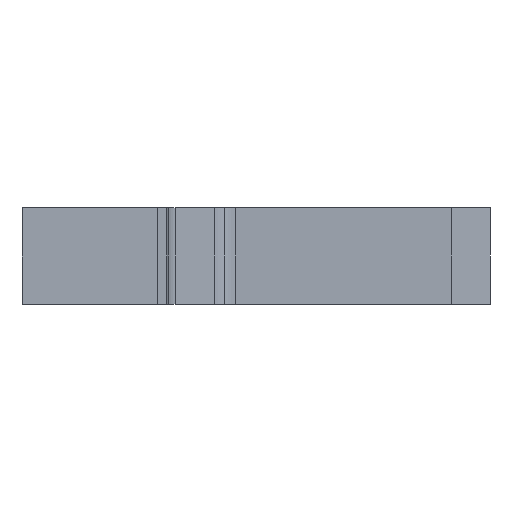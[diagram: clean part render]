
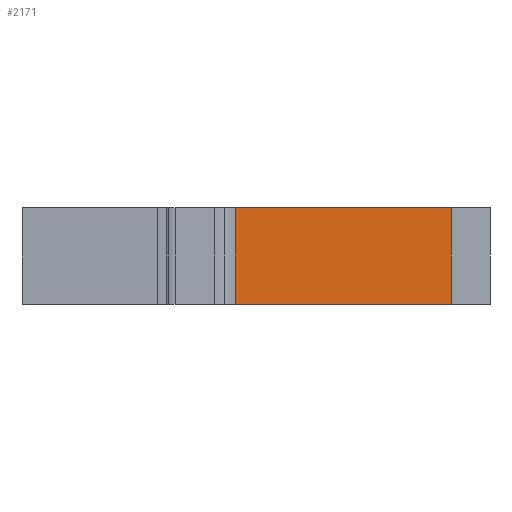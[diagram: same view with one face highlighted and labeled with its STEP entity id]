
A CAD part, left-side view. The second image highlights one B-rep face of the part: STEP entity #2171.
In plain terms, the highlighted planar face has unit normal (-1, 0, 0).
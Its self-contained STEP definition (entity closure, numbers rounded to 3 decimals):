
#59=CARTESIAN_POINT('',(-32.0,28.808,0.));
#60=VERTEX_POINT('',#59);
#68=CARTESIAN_POINT('',(-32.0,28.808,20.));
#69=VERTEX_POINT('',#68);
#70=CARTESIAN_POINT('',(-32.0,28.808,0.));
#71=DIRECTION('',(0.0,0.0,1.0));
#72=VECTOR('',#71,20.0);
#73=LINE('',#70,#72);
#74=EDGE_CURVE('',#60,#69,#73,.T.);
#2124=CARTESIAN_POINT('',(-32.0,-16.,20.));
#2125=VERTEX_POINT('',#2124);
#2132=CARTESIAN_POINT('',(-32.0,-16.,0.));
#2133=VERTEX_POINT('',#2132);
#2134=CARTESIAN_POINT('',(-32.0,-16.,0.));
#2135=DIRECTION('',(0.0,0.0,1.0));
#2136=VECTOR('',#2135,20.0);
#2137=LINE('',#2134,#2136);
#2138=EDGE_CURVE('',#2133,#2125,#2137,.T.);
#2150=CARTESIAN_POINT('',(-32.0,-16.,0.));
#2151=DIRECTION('',(-1.0,0.0,0.0));
#2152=DIRECTION('',(0.0,0.0,1.0));
#2153=AXIS2_PLACEMENT_3D('',#2150,#2151,#2152);
#2154=PLANE('',#2153);
#2155=CARTESIAN_POINT('',(-32.0,-16.,20.));
#2156=DIRECTION('',(0.0,1.0,0.0));
#2157=VECTOR('',#2156,44.808);
#2158=LINE('',#2155,#2157);
#2159=EDGE_CURVE('',#2125,#69,#2158,.T.);
#2160=ORIENTED_EDGE('',*,*,#2159,.T.);
#2161=ORIENTED_EDGE('',*,*,#74,.F.);
#2162=CARTESIAN_POINT('',(-32.0,28.808,0.));
#2163=DIRECTION('',(0.0,-1.0,0.0));
#2164=VECTOR('',#2163,44.808);
#2165=LINE('',#2162,#2164);
#2166=EDGE_CURVE('',#60,#2133,#2165,.T.);
#2167=ORIENTED_EDGE('',*,*,#2166,.T.);
#2168=ORIENTED_EDGE('',*,*,#2138,.T.);
#2169=EDGE_LOOP('',(#2160,#2161,#2167,#2168));
#2170=FACE_OUTER_BOUND('',#2169,.T.);
#2171=ADVANCED_FACE('',(#2170),#2154,.T.);
